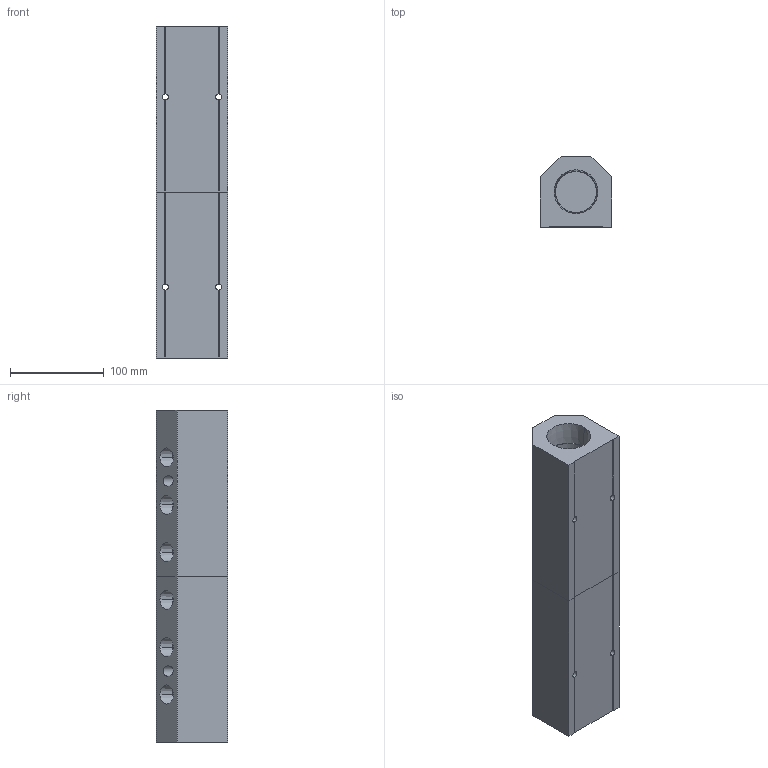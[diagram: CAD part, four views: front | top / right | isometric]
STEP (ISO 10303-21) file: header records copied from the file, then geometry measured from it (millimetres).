
FILE_DESCRIPTION (( 'STEP AP214' ), '1' );
FILE_NAME ('ALM6BD-N8N24-355RB.step', '2022-02-07T09:39:43', ( '' ), ( '' ), 'SwSTEP 2.0', 'SolidWorks 2020', '' );
FILE_SCHEMA (( 'AUTOMOTIVE_DESIGN' ));
Length unit declared in the file: millimetre
Products named in the file (1): ALM6BD-N8N24-355RB
Bounding box: 76.2 x 76.2 x 355 mm (x, y, z)
Volume: 1259911.7 mm3; surface area: 180002.9 mm2
Topology: 2 solids, 2 shells, 372 faces, 979 edges, 650 vertices
Faces by surface type: plane 231, bspline 93, cone 28, cylinder 20
Entity records: 21527 total; most frequent: CARTESIAN_POINT 9421, ORIENTED_EDGE 1958, DIRECTION 1377, EDGE_CURVE 979, VECTOR 689, LINE 689, VERTEX_POINT 650, EDGE_LOOP 443
